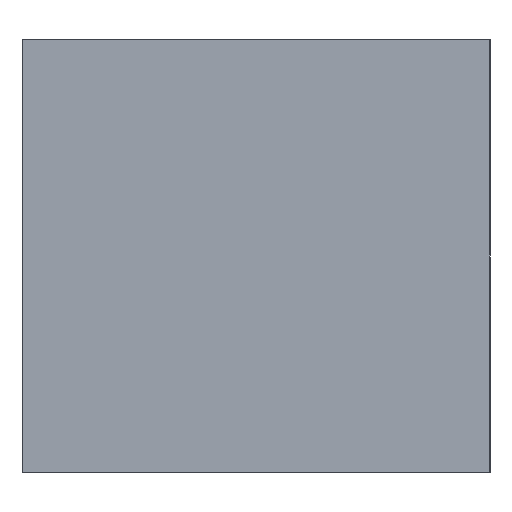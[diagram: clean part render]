
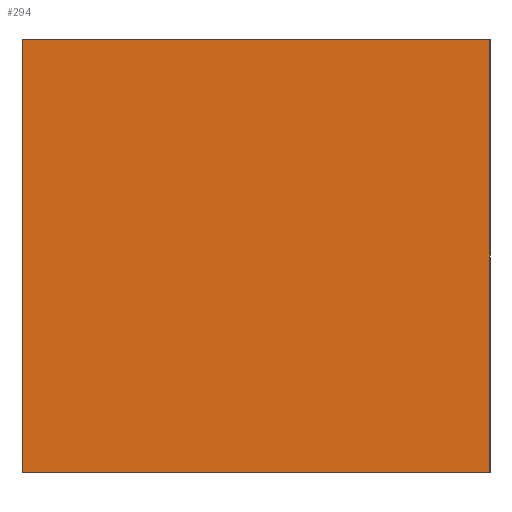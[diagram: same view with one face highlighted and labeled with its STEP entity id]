
A CAD part, left-side view. The second image highlights one B-rep face of the part: STEP entity #294.
In plain terms, the highlighted planar face has unit normal (-1, 0, 0).
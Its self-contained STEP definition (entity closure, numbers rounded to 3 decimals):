
#294=ADVANCED_FACE('',(#480),#482,.T.);
#480=FACE_BOUND('',#481,.T.);
#481=EDGE_LOOP('',(#606,#607,#608,#609));
#482=PLANE('',#483);
#483=AXIS2_PLACEMENT_3D('',#484,#485,#486);
#484=CARTESIAN_POINT('',(-0.8,-0.4,0.));
#485=DIRECTION('',(-1.,0.,0.));
#486=DIRECTION('',(0.,0.,1.));
#606=ORIENTED_EDGE('',*,*,#659,.T.);
#607=ORIENTED_EDGE('',*,*,#672,.T.);
#608=ORIENTED_EDGE('',*,*,#664,.F.);
#609=ORIENTED_EDGE('',*,*,#673,.F.);
#659=EDGE_CURVE('',#752,#750,#753,.T.);
#664=EDGE_CURVE('',#758,#760,#761,.T.);
#672=EDGE_CURVE('',#750,#760,#772,.T.);
#673=EDGE_CURVE('',#752,#758,#773,.T.);
#750=VERTEX_POINT('',#938);
#752=VERTEX_POINT('',#942);
#753=LINE('',#943,#944);
#758=VERTEX_POINT('',#956);
#760=VERTEX_POINT('',#960);
#761=LINE('',#961,#962);
#772=LINE('',#988,#989);
#773=LINE('',#991,#992);
#938=CARTESIAN_POINT('',(-0.8,-0.4,0.74));
#942=CARTESIAN_POINT('',(-0.8,-0.4,0.));
#943=CARTESIAN_POINT('',(-0.8,-0.4,0.));
#944=VECTOR('',#945,1.);
#945=DIRECTION('',(0.,0.,1.));
#956=CARTESIAN_POINT('',(-0.8,0.4,0.));
#960=CARTESIAN_POINT('',(-0.8,0.4,0.74));
#961=CARTESIAN_POINT('',(-0.8,0.4,0.));
#962=VECTOR('',#963,1.);
#963=DIRECTION('',(0.,0.,1.));
#988=CARTESIAN_POINT('',(-0.8,-0.4,0.74));
#989=VECTOR('',#990,1.);
#990=DIRECTION('',(0.,1.,0.));
#991=CARTESIAN_POINT('',(-0.8,-0.4,0.));
#992=VECTOR('',#993,1.);
#993=DIRECTION('',(0.,1.,0.));
